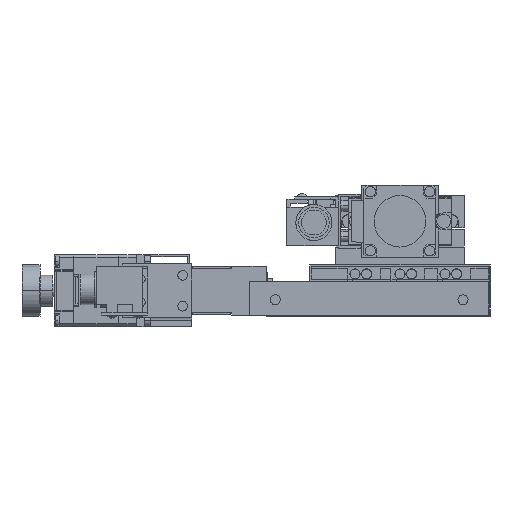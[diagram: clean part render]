
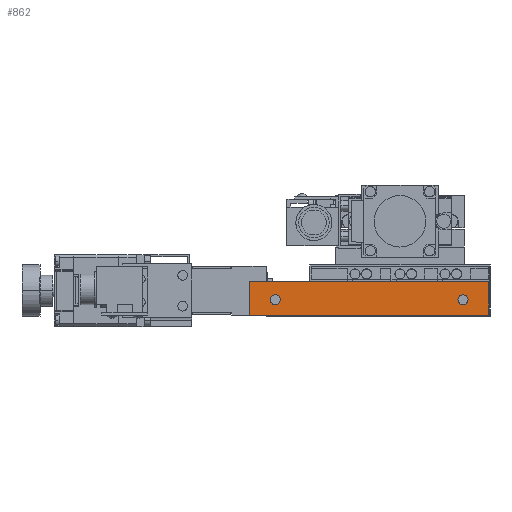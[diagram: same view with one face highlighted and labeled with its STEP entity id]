
A CAD part, front view. The second image highlights one B-rep face of the part: STEP entity #862.
In plain terms, the highlighted planar face has unit normal (0, -1, 0).
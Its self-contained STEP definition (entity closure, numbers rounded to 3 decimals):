
#862=ADVANCED_FACE('',(#2684,#2685,#2686),#2687,.F.);
#2684=FACE_BOUND('',#6078,.T.);
#2685=FACE_OUTER_BOUND('',#6079,.T.);
#2686=FACE_BOUND('',#6080,.T.);
#2687=PLANE('',#6081);
#6078=EDGE_LOOP('',(#10719,#10720));
#6079=EDGE_LOOP('',(#10721,#10722,#10723,#10724));
#6080=EDGE_LOOP('',(#10725,#10726));
#6081=AXIS2_PLACEMENT_3D('',#10727,#10728,#10729);
#10719=ORIENTED_EDGE('',*,*,#22347,.F.);
#10720=ORIENTED_EDGE('',*,*,#22362,.F.);
#10721=ORIENTED_EDGE('',*,*,#22363,.T.);
#10722=ORIENTED_EDGE('',*,*,#22364,.F.);
#10723=ORIENTED_EDGE('',*,*,#22365,.F.);
#10724=ORIENTED_EDGE('',*,*,#22366,.T.);
#10725=ORIENTED_EDGE('',*,*,#22359,.F.);
#10726=ORIENTED_EDGE('',*,*,#22361,.F.);
#10727=CARTESIAN_POINT('',(34.5,-41.8,13.5));
#10728=DIRECTION('',(0.,1.0,0.));
#10729=DIRECTION('',(0.,0.,-1.0));
#22347=EDGE_CURVE('',#26716,#26712,#26718,.F.);
#22359=EDGE_CURVE('',#26740,#26736,#26742,.F.);
#22361=EDGE_CURVE('',#26736,#26740,#26744,.F.);
#22362=EDGE_CURVE('',#26712,#26716,#26745,.F.);
#22363=EDGE_CURVE('',#26746,#26747,#26748,.T.);
#22364=EDGE_CURVE('',#26749,#26747,#26750,.T.);
#22365=EDGE_CURVE('',#26751,#26749,#26752,.T.);
#22366=EDGE_CURVE('',#26751,#26746,#26753,.T.);
#26712=VERTEX_POINT('',#33716);
#26716=VERTEX_POINT('',#33721);
#26718=CIRCLE('',#33724,1.95);
#26736=VERTEX_POINT('',#33746);
#26740=VERTEX_POINT('',#33751);
#26742=CIRCLE('',#33754,1.95);
#26744=CIRCLE('',#33756,1.95);
#26745=CIRCLE('',#33757,1.95);
#26746=VERTEX_POINT('',#33758);
#26747=VERTEX_POINT('',#33759);
#26748=LINE('',#33760,#33761);
#26749=VERTEX_POINT('',#33762);
#26750=LINE('',#33763,#33764);
#26751=VERTEX_POINT('',#33765);
#26752=LINE('',#33766,#33767);
#26753=LINE('',#33768,#33769);
#33716=CARTESIAN_POINT('',(-46.55,-41.8,6.5));
#33721=CARTESIAN_POINT('',(-50.45,-41.8,6.5));
#33724=AXIS2_PLACEMENT_3D('',#42987,#42988,#42989);
#33746=CARTESIAN_POINT('',(26.45,-41.8,6.5));
#33751=CARTESIAN_POINT('',(22.55,-41.8,6.5));
#33754=AXIS2_PLACEMENT_3D('',#43011,#43012,#43013);
#33756=AXIS2_PLACEMENT_3D('',#43017,#43018,#43019);
#33757=AXIS2_PLACEMENT_3D('',#43020,#43021,#43022);
#33758=CARTESIAN_POINT('',(-58.5,-41.8,13.5));
#33759=CARTESIAN_POINT('',(-58.5,-41.8,0.5));
#33760=CARTESIAN_POINT('',(-58.5,-41.8,13.5));
#33761=VECTOR('',#43023,1000.0);
#33762=CARTESIAN_POINT('',(34.5,-41.8,0.5));
#33763=CARTESIAN_POINT('',(34.5,-41.8,0.5));
#33764=VECTOR('',#43024,1000.0);
#33765=CARTESIAN_POINT('',(34.5,-41.8,13.5));
#33766=CARTESIAN_POINT('',(34.5,-41.8,13.5));
#33767=VECTOR('',#43025,1000.0);
#33768=CARTESIAN_POINT('',(34.5,-41.8,13.5));
#33769=VECTOR('',#43026,1000.0);
#42987=CARTESIAN_POINT('',(-48.5,-41.8,6.5));
#42988=DIRECTION('',(0.,1.0,0.));
#42989=DIRECTION('',(-1.0,0.,0.));
#43011=CARTESIAN_POINT('',(24.5,-41.8,6.5));
#43012=DIRECTION('',(0.,1.0,0.));
#43013=DIRECTION('',(-1.0,0.,0.));
#43017=CARTESIAN_POINT('',(24.5,-41.8,6.5));
#43018=DIRECTION('',(0.,1.0,0.));
#43019=DIRECTION('',(-1.0,0.,0.));
#43020=CARTESIAN_POINT('',(-48.5,-41.8,6.5));
#43021=DIRECTION('',(0.,1.0,0.));
#43022=DIRECTION('',(-1.0,0.,0.));
#43023=DIRECTION('',(0.,0.,-1.0));
#43024=DIRECTION('',(-1.0,0.,0.));
#43025=DIRECTION('',(0.,0.,-1.0));
#43026=DIRECTION('',(-1.0,0.,0.));
